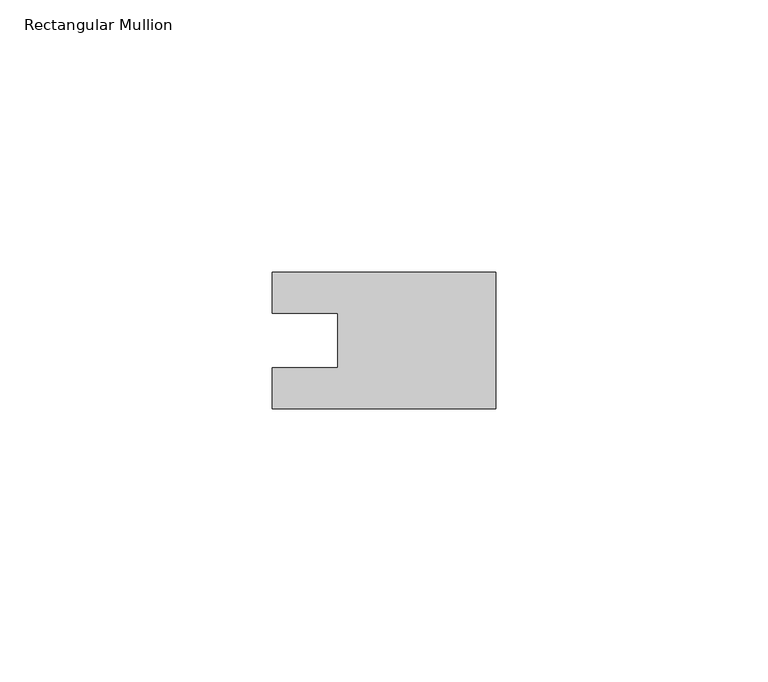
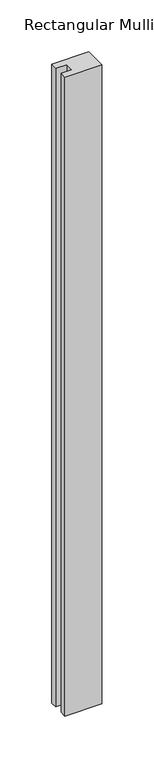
"""IFC4 building model written with IfcOpenShell, lengths in millimetres: member geometry, Rectangular Mullion : 22_IM_HGS_DET1_boven_40mm."""

from ifc_helpers import new_model, si_unit, frame, origin, place, context, project, spatial, polyline, outline, extrude, source, transform, mapped, element, save


def rectangular_mullion_8ea182ef(model_context):
    return source(origin(), model_context, "Body", "SweptSolid", [
        extrude(outline(polyline([(0.0, 12.5), (0.0, -12.5), (-41.0, -12.5), (-41.0, -5.0), (-29.0, -5.0), (-29.0, 5.0), (-41.0, 5.0), (-41.0, 12.5), (0.0, 12.5)])), frame((0.0, 0.0, -750.0), z_axis=(0.0, 0.0, 1.0), x_axis=(1.0, 0.0, 0.0)), (0.0, 0.0, 1.0), 750.0),
    ])


if __name__ == "__main__":
    model = new_model("IFC4")
    model_context = context("Model", 3, world=origin())
    ifc_project = project(units=[si_unit("LENGTHUNIT", "METRE", prefix="MILLI")], contexts=[model_context])
    site = spatial("IfcSite", under=ifc_project)
    building = spatial("IfcBuilding", under=site)
    placement = place(None, origin())
    rectangular_mullion_shape = rectangular_mullion_8ea182ef(model_context)
    element("IfcMember", 1, ObjectType="Rectangular Mullion : 22_IM_HGS_DET1_boven_40mm", at=placement, inside=building, context=model_context, shape_type="MappedRepresentation", body=[
        mapped(rectangular_mullion_shape, transform((0.0, 0.0, 0.0), x_axis=(1.0, 0.0, 0.0), y_axis=(0.0, 1.0, 0.0), z_axis=(0.0, 0.0, 1.0))),
    ])
    save(model, "model.ifc")
